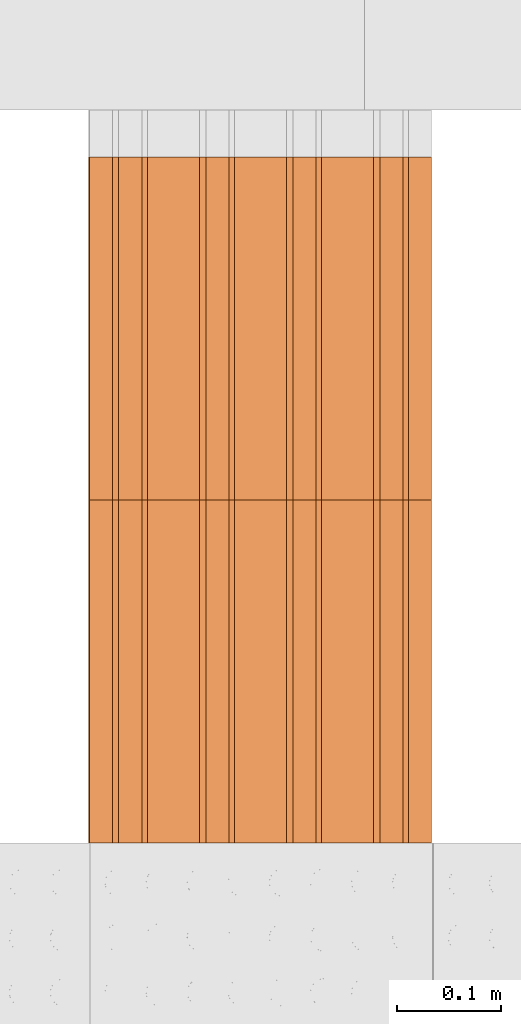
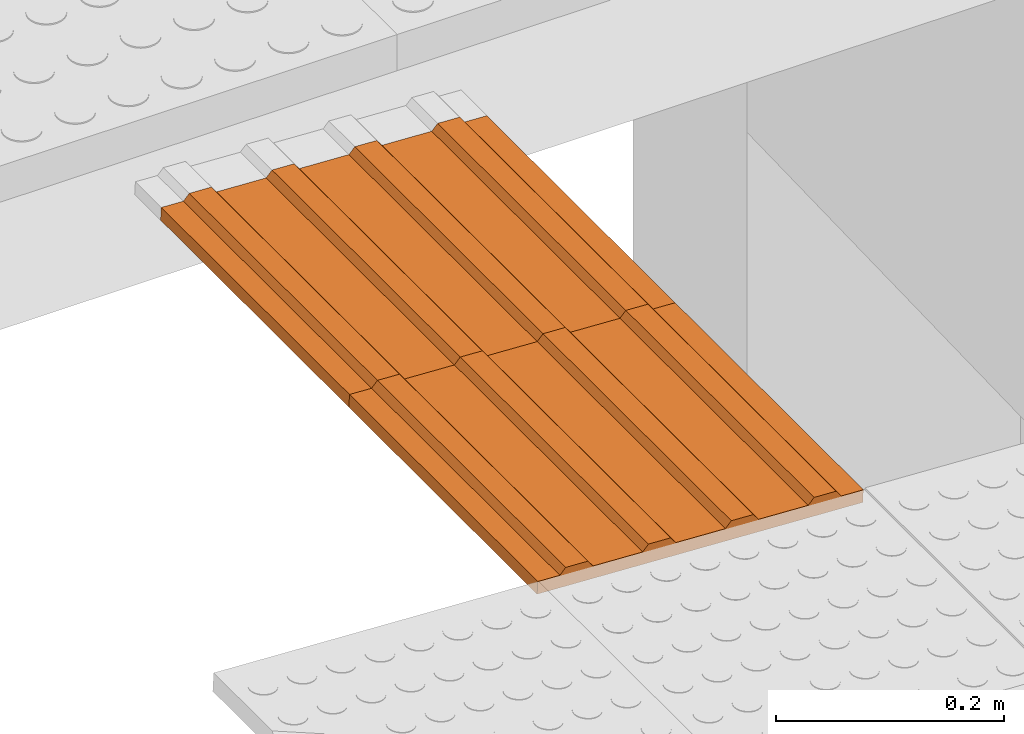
# One storey, part 164 of 237: 2 proxies.
"""IFC2X3 building model written with IfcOpenShell, lengths in millimetres."""

from ifc_helpers import new_model, entity, si_unit, converted_unit, derived_unit, money_unit, direction, frame, origin_with_axes, place, context, subcontext, project, spatial, open_shell, surface_model, source, transform, mapped, type_object, element, save


model = new_model("IFC2X3")

# Units and contexts
model_context = context("Model", 3, precision=0.01, world=origin_with_axes(), true_north=direction((0.0, 1.0)))
body_context = subcontext(model_context, "Body", "Model", "MODEL_VIEW")
ifc_project = project(units=[si_unit("LENGTHUNIT", "METRE", prefix="MILLI"), si_unit("AREAUNIT", "SQUARE_METRE"), si_unit("VOLUMEUNIT", "CUBIC_METRE"), converted_unit("PLANEANGLEUNIT", "DEGREE", entity("IfcPlaneAngleMeasure", 0.0174532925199), si_unit("PLANEANGLEUNIT", "RADIAN"), dimensions=[0, 0, 0, 0, 0, 0, 0]), money_unit("USD"), converted_unit("TIMEUNIT", "Year", entity("IfcTimeMeasure", 31556926.0), si_unit("TIMEUNIT", "SECOND"), dimensions=[0, 0, 1, 0, 0, 0, 0]), si_unit("MASSUNIT", "GRAM", prefix="KILO"), si_unit("THERMODYNAMICTEMPERATUREUNIT", "DEGREE_CELSIUS"), si_unit("LUMINOUSINTENSITYUNIT", "LUMEN"), si_unit("ENERGYUNIT", "JOULE", prefix="MEGA"), derived_unit("THERMALCONDUCTANCEUNIT", [(si_unit("POWERUNIT", "WATT"), 1), (si_unit("LENGTHUNIT", "METRE"), -1), (si_unit("THERMODYNAMICTEMPERATUREUNIT", "KELVIN"), -1)]), derived_unit("SPECIFICHEATCAPACITYUNIT", [(si_unit("ENERGYUNIT", "JOULE"), 1), (si_unit("MASSUNIT", "GRAM", prefix="KILO"), -1), (si_unit("THERMODYNAMICTEMPERATUREUNIT", "KELVIN"), -1)]), derived_unit("MASSDENSITYUNIT", [(si_unit("MASSUNIT", "GRAM", prefix="KILO"), 1), (si_unit("VOLUMEUNIT", "CUBIC_METRE"), -1)])], contexts=[model_context])

# Site, building, storey
site_placement = place(None, origin_with_axes())
site = spatial("IfcSite", under=ifc_project, at=site_placement, Name="Local", CompositionType="ELEMENT")
building_placement = place(site_placement, origin_with_axes())
building = spatial("IfcBuilding", under=site, at=building_placement, Name="Construção", CompositionType="ELEMENT")
storey_placement = place(building_placement, origin_with_axes())
storey = spatial("IfcBuildingStorey", under=building, at=storey_placement, Name="Pavimento Térreo", CompositionType="ELEMENT", Elevation=0.0)

# Proxies
building_element_proxy_type = type_object("IfcBuildingElementProxyType", Name="Piso Direcional 27", PredefinedType="NOTDEFINED")
shared_shape = source(origin_with_axes(), body_context, "Body", "SurfaceModel", [
    surface_model("IfcShellBasedSurfaceModel", [(0.0, -46.9837561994, 6.48810385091), (330.0, -46.9837561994, 6.48810385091), (330.0, -41.0504057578, 12.8539432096), (0.0, -41.0504057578, 12.8539432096)], [open_shell([[[0, 1, 2, 3]]])]),
    surface_model("IfcShellBasedSurfaceModel", [(330.0, -153.805759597, -1.28379652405), (330.0, 175.744996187, -18.4971448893), (330.0, 176.44048501, -5.18196283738), (330.0, 154.098060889, -4.01495616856), (330.0, 148.860199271, 2.9343865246), (330.0, 126.51777515, 4.10139319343), (330.0, 120.584424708, -2.26444616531), (330.0, 70.3139704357, 0.361318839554), (330.0, 65.0761088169, 7.31066153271), (330.0, 42.7336846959, 8.47766820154), (330.0, 36.8003342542, 2.1118288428), (330.0, -13.470120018, 4.73759384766), (330.0, -18.7079816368, 11.6869365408), (330.0, -41.0504057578, 12.8539432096), (330.0, -46.9837561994, 6.48810385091), (330.0, -97.2542104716, 9.11386885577), (330.0, -102.49207209, 16.0632115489), (330.0, -124.834496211, 17.2302182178), (330.0, -130.767846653, 10.864378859), (330.0, -153.110270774, 12.0313855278)], [open_shell([[[0, 1, 2, 3, 4, 5, 6, 7, 8, 9, 10, 11, 12, 13, 14, 15, 16, 17, 18, 19]]])]),
    surface_model("IfcShellBasedSurfaceModel", [(0.0, -18.7079816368, 11.6869365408), (330.0, -18.7079816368, 11.6869365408), (330.0, -13.470120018, 4.73759384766), (0.0, -13.470120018, 4.73759384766)], [open_shell([[[0, 1, 2, 3]]])]),
    surface_model("IfcShellBasedSurfaceModel", [(0.0, -102.49207209, 16.0632115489), (330.0, -102.49207209, 16.0632115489), (330.0, -97.2542104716, 9.11386885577), (0.0, -97.2542104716, 9.11386885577)], [open_shell([[[0, 1, 2, 3]]])]),
    surface_model("IfcShellBasedSurfaceModel", [(0.0, 65.0761088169, 7.31066153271), (330.0, 65.0761088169, 7.31066153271), (330.0, 70.3139704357, 0.361318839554), (0.0, 70.3139704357, 0.361318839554)], [open_shell([[[0, 1, 2, 3]]])]),
    surface_model("IfcShellBasedSurfaceModel", [(0.0, 36.8003342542, 2.1118288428), (330.0, 36.8003342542, 2.1118288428), (330.0, 42.7336846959, 8.47766820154), (0.0, 42.7336846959, 8.47766820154)], [open_shell([[[0, 1, 2, 3]]])]),
    surface_model("IfcShellBasedSurfaceModel", [(0.0, -130.767846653, 10.864378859), (330.0, -130.767846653, 10.864378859), (330.0, -124.834496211, 17.2302182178), (0.0, -124.834496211, 17.2302182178)], [open_shell([[[0, 1, 2, 3]]])]),
    surface_model("IfcShellBasedSurfaceModel", [(0.0, 176.44048501, -5.18196283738), (0.0, 154.098060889, -4.01495616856), (330.0, 154.098060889, -4.01495616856), (330.0, 176.44048501, -5.18196283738)], [open_shell([[[0, 1, 2, 3]]])]),
    surface_model("IfcShellBasedSurfaceModel", [(0.0, 120.584424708, -2.26444616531), (330.0, 120.584424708, -2.26444616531), (330.0, 126.51777515, 4.10139319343), (0.0, 126.51777515, 4.10139319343)], [open_shell([[[0, 1, 2, 3]]])]),
    surface_model("IfcShellBasedSurfaceModel", [(0.0, 148.860199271, 2.9343865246), (330.0, 148.860199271, 2.9343865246), (330.0, 154.098060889, -4.01495616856), (0.0, 154.098060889, -4.01495616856)], [open_shell([[[0, 1, 2, 3]]])]),
    surface_model("IfcShellBasedSurfaceModel", [(0.0, 36.8003342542, 2.1118288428), (0.0, -13.470120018, 4.73759384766), (330.0, -13.470120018, 4.73759384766), (330.0, 36.8003342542, 2.1118288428)], [open_shell([[[0, 1, 2, 3]]])]),
    surface_model("IfcShellBasedSurfaceModel", [(0.0, 120.584424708, -2.26444616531), (0.0, 70.3139704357, 0.361318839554), (330.0, 70.3139704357, 0.361318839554), (330.0, 120.584424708, -2.26444616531)], [open_shell([[[0, 1, 2, 3]]])]),
    surface_model("IfcShellBasedSurfaceModel", [(0.0, 148.860199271, 2.9343865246), (0.0, 126.51777515, 4.10139319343), (330.0, 126.51777515, 4.10139319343), (330.0, 148.860199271, 2.9343865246)], [open_shell([[[0, 1, 2, 3]]])]),
    surface_model("IfcShellBasedSurfaceModel", [(0.0, 120.584424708, -2.26444616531), (0.0, 126.51777515, 4.10139319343), (0.0, 148.860199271, 2.9343865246), (0.0, 154.098060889, -4.01495616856), (0.0, 176.44048501, -5.18196283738), (0.0, 175.744996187, -18.4971448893), (0.0, -153.805759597, -1.28379652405), (0.0, -153.110270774, 12.0313855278), (0.0, -130.767846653, 10.864378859), (0.0, -124.834496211, 17.2302182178), (0.0, -102.49207209, 16.0632115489), (0.0, -97.2542104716, 9.11386885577), (0.0, -46.9837561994, 6.48810385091), (0.0, -41.0504057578, 12.8539432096), (0.0, -18.7079816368, 11.6869365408), (0.0, -13.470120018, 4.73759384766), (0.0, 36.8003342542, 2.1118288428), (0.0, 42.7336846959, 8.47766820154), (0.0, 65.0761088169, 7.31066153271), (0.0, 70.3139704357, 0.361318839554)], [open_shell([[[0, 1, 2, 3, 4, 5, 6, 7, 8, 9, 10, 11, 12, 13, 14, 15, 16, 17, 18, 19]]])]),
    surface_model("IfcShellBasedSurfaceModel", [(330.0, -41.0504057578, 12.8539432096), (330.0, -18.7079816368, 11.6869365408), (0.0, -18.7079816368, 11.6869365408), (0.0, -41.0504057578, 12.8539432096)], [open_shell([[[0, 1, 2, 3]]])]),
    surface_model("IfcShellBasedSurfaceModel", [(0.0, -46.9837561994, 6.48810385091), (0.0, -97.2542104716, 9.11386885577), (330.0, -97.2542104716, 9.11386885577), (330.0, -46.9837561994, 6.48810385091)], [open_shell([[[0, 1, 2, 3]]])]),
    surface_model("IfcShellBasedSurfaceModel", [(330.0, 42.7336846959, 8.47766820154), (330.0, 65.0761088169, 7.31066153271), (0.0, 65.0761088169, 7.31066153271), (0.0, 42.7336846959, 8.47766820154)], [open_shell([[[0, 1, 2, 3]]])]),
    surface_model("IfcShellBasedSurfaceModel", [(330.0, -124.834496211, 17.2302182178), (330.0, -102.49207209, 16.0632115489), (0.0, -102.49207209, 16.0632115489), (0.0, -124.834496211, 17.2302182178)], [open_shell([[[0, 1, 2, 3]]])]),
    surface_model("IfcShellBasedSurfaceModel", [(330.0, 175.744996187, -18.4971448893), (0.0, 175.744996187, -18.4971448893), (0.0, 176.44048501, -5.18196283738), (330.0, 176.44048501, -5.18196283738)], [open_shell([[[0, 1, 2, 3]]])]),
    surface_model("IfcShellBasedSurfaceModel", [(330.0, -153.805759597, -1.28379652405), (0.0, -153.805759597, -1.28379652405), (0.0, 175.744996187, -18.4971448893), (330.0, 175.744996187, -18.4971448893)], [open_shell([[[0, 1, 2, 3]]])]),
    surface_model("IfcShellBasedSurfaceModel", [(330.0, -153.110270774, 12.0313855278), (330.0, -130.767846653, 10.864378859), (0.0, -130.767846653, 10.864378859), (0.0, -153.110270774, 12.0313855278)], [open_shell([[[0, 1, 2, 3]]])]),
    surface_model("IfcShellBasedSurfaceModel", [(0.0, -153.805759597, -1.28379652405), (330.0, -153.805759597, -1.28379652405), (330.0, -153.110270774, 12.0313855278), (0.0, -153.110270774, 12.0313855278)], [open_shell([[[0, 1, 2, 3]]])]),
])
for number, where, z_axis, x_axis, name in (
    (1, (41350.5242602, 11647.9675858, -3104.51928171), (0.0, 0.0, 1.0), (0.0, -1.0, 0.0), "Objeto-0055"),
    (2, (41350.5242602, 11977.9675858, -3104.51928171), (0.0, 0.0, 1.0), (0.0, -1.0, 0.0), "Objeto-0055"),
):
    element("IfcBuildingElementProxy", number, at=place(storey_placement, frame(where, z_axis=z_axis, x_axis=x_axis)), inside=storey, type_object=building_element_proxy_type, Name=name, context=body_context, shape_type="MappedRepresentation", body=[
        mapped(shared_shape, transform((0.0, 0.0, 0.0))),
    ])

save(model, "model.ifc")
